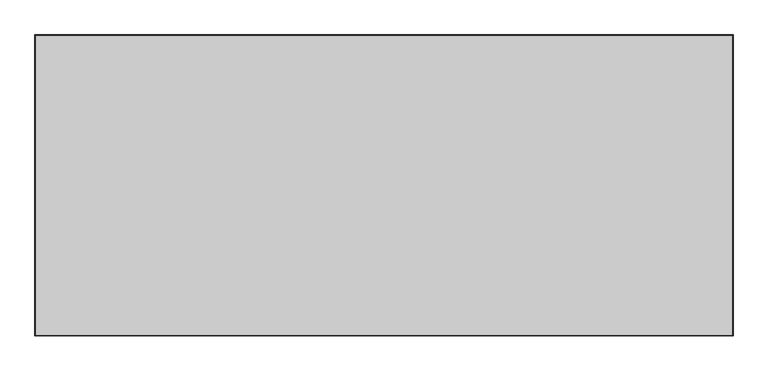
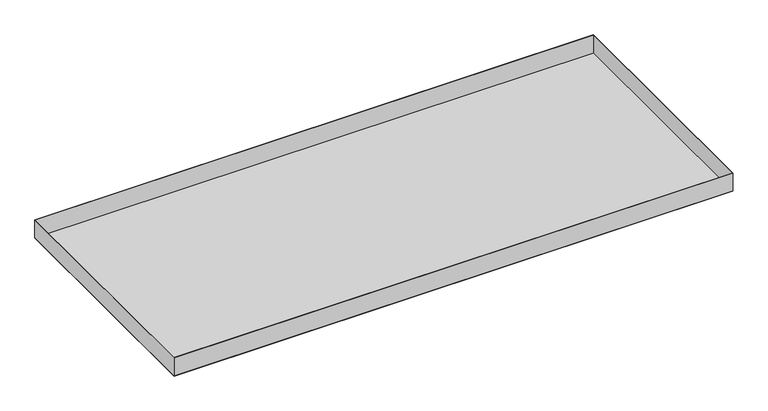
"""IFC4 building model written with IfcOpenShell, lengths in millimetres: proxy geometry, durlum_S-OM-40-RHOMBOS : durlum_S-OM-40-RHOMBOS_panel_wall_width_cut."""

from ifc_helpers import new_model, si_unit, frame, origin, origin_with_axes, place, context, project, spatial, polyline, outline, extrude, source, transform, mapped, element, save


def generic_models_f1f4aed1(model_context):
    return source(origin(), model_context, "Body", "SweptSolid", [
        extrude(outline(polyline([(579.0, 249.5), (579.0, -249.5), (-579.0, -249.5), (-579.0, 249.5), (579.0, 249.5)]), holes=[polyline([(578.4, 248.9), (-578.4, 248.9), (-578.4, -248.9), (578.4, -248.9), (578.4, 248.9)])]), frame((0.0, 0.0, 0.6), z_axis=(0.0, 0.0, 1.0), x_axis=(1.0, 0.0, 0.0)), (0.0, 0.0, 1.0), 39.4),
        extrude(outline(polyline([(578.0, 248.5), (578.0, -248.5), (-578.0, -248.5), (-578.0, 248.5), (578.0, 248.5)])), frame((0.0, 0.0, 0.6), z_axis=(0.0, 0.0, 1.0), x_axis=(1.0, 0.0, 0.0)), (0.0, 0.0, 1.0), 0.6),
        extrude(outline(polyline([(579.0, 249.5), (579.0, -249.5), (-579.0, -249.5), (-579.0, 249.5), (579.0, 249.5)]), holes=[polyline([(578.0, 248.5), (-578.0, 248.5), (-578.0, -248.5), (578.0, -248.5), (578.0, 248.5)])]), origin_with_axes(), (0.0, 0.0, 1.0), 0.6),
        extrude(outline(polyline([(578.0, 248.5), (578.0, -248.5), (-578.0, -248.5), (-578.0, 248.5), (578.0, 248.5)])), origin_with_axes(), (0.0, 0.0, 1.0), 0.6),
    ])


if __name__ == "__main__":
    model = new_model("IFC4")
    model_context = context("Model", 3, world=origin())
    ifc_project = project(units=[si_unit("LENGTHUNIT", "METRE", prefix="MILLI")], contexts=[model_context])
    site = spatial("IfcSite", under=ifc_project)
    building = spatial("IfcBuilding", under=site)
    placement = place(None, origin())
    generic_models_shape = generic_models_f1f4aed1(model_context)
    element("IfcBuildingElementProxy", 1, Name="durlum_S-OM-40-RHOMBOS : durlum_S-OM-40-RHOMBOS_panel_wall_width_cut", ObjectType="durlum_S-OM-40-RHOMBOS : durlum_S-OM-40-RHOMBOS_panel_wall_width_cut", at=placement, inside=building, context=model_context, shape_type="MappedRepresentation", body=[
        mapped(generic_models_shape, transform((0.0, 0.0, 0.0), x_axis=(1.0, 0.0, 0.0), y_axis=(0.0, 1.0, 0.0), z_axis=(0.0, 0.0, 1.0))),
    ])
    save(model, "model.ifc")
